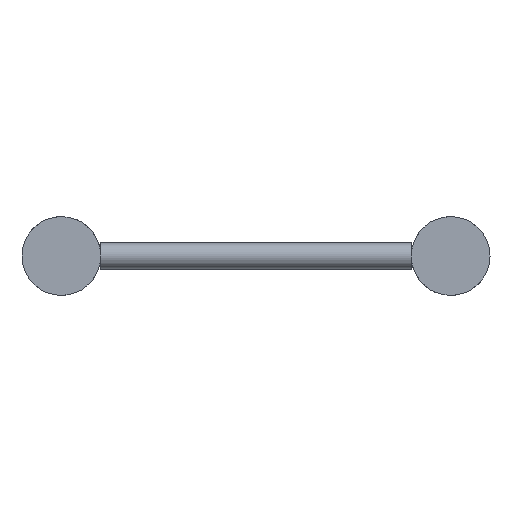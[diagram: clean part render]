
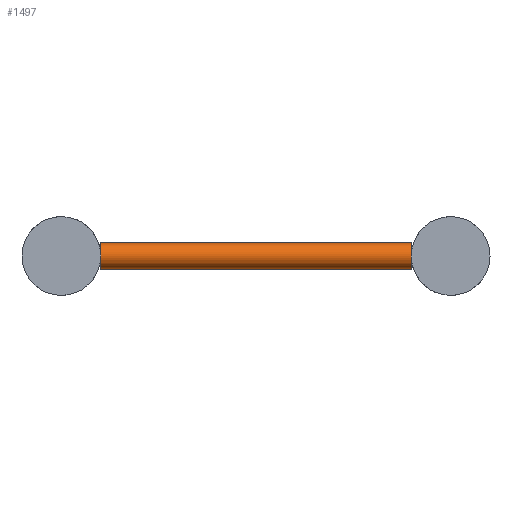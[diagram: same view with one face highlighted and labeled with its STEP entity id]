
A CAD part, left-side view. The second image highlights one B-rep face of the part: STEP entity #1497.
In plain terms, the highlighted cylindrical face has radius 8 mm (diameter 16 mm), a full revolution.
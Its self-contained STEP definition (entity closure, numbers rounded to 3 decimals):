
#283=FACE_BOUND('',#517,.T.);
#404=FACE_OUTER_BOUND('',#516,.T.);
#516=EDGE_LOOP('',(#1137,#1138));
#517=EDGE_LOOP('',(#1139,#1140));
#613=CIRCLE('',#1646,8.);
#614=CIRCLE('',#1648,8.);
#615=CIRCLE('',#1650,8.);
#616=CIRCLE('',#1652,8.);
#729=VERTEX_POINT('',#2581);
#730=VERTEX_POINT('',#2582);
#731=VERTEX_POINT('',#2586);
#732=VERTEX_POINT('',#2587);
#904=EDGE_CURVE('',#730,#729,#613,.T.);
#906=EDGE_CURVE('',#732,#731,#614,.T.);
#907=EDGE_CURVE('',#729,#730,#615,.T.);
#908=EDGE_CURVE('',#731,#732,#616,.T.);
#1137=ORIENTED_EDGE('',*,*,#904,.T.);
#1138=ORIENTED_EDGE('',*,*,#907,.T.);
#1139=ORIENTED_EDGE('',*,*,#906,.T.);
#1140=ORIENTED_EDGE('',*,*,#908,.T.);
#1321=CYLINDRICAL_SURFACE('',#1651,8.);
#1497=ADVANCED_FACE('',(#404,#283),#1321,.T.);
#1646=AXIS2_PLACEMENT_3D('',#2584,#1976,#1977);
#1648=AXIS2_PLACEMENT_3D('',#2589,#1981,#1982);
#1650=AXIS2_PLACEMENT_3D('',#2591,#1985,#1986);
#1651=AXIS2_PLACEMENT_3D('',#2592,#1987,#1988);
#1652=AXIS2_PLACEMENT_3D('',#2593,#1989,#1990);
#1976=DIRECTION('center_axis',(0.,1.,0.));
#1977=DIRECTION('ref_axis',(-1.,0.,0.));
#1981=DIRECTION('center_axis',(0.,-1.,0.));
#1982=DIRECTION('ref_axis',(-1.,0.,0.));
#1985=DIRECTION('center_axis',(0.,1.,0.));
#1986=DIRECTION('ref_axis',(-1.,0.,0.));
#1987=DIRECTION('center_axis',(0.,1.,0.));
#1988=DIRECTION('ref_axis',(-1.,0.,0.));
#1989=DIRECTION('center_axis',(0.,-1.,0.));
#1990=DIRECTION('ref_axis',(-1.,0.,0.));
#2581=CARTESIAN_POINT('',(52.,24.15,0.));
#2582=CARTESIAN_POINT('',(68.,24.15,0.));
#2584=CARTESIAN_POINT('Origin',(60.,24.15,0.));
#2586=CARTESIAN_POINT('',(52.,214.85,0.));
#2587=CARTESIAN_POINT('',(68.,214.85,0.));
#2589=CARTESIAN_POINT('Origin',(60.,214.85,0.));
#2591=CARTESIAN_POINT('Origin',(60.,24.15,0.));
#2592=CARTESIAN_POINT('Origin',(60.,119.5,0.));
#2593=CARTESIAN_POINT('Origin',(60.,214.85,0.));
